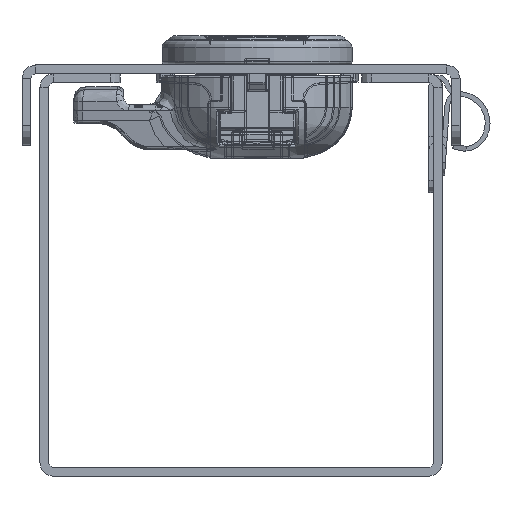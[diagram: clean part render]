
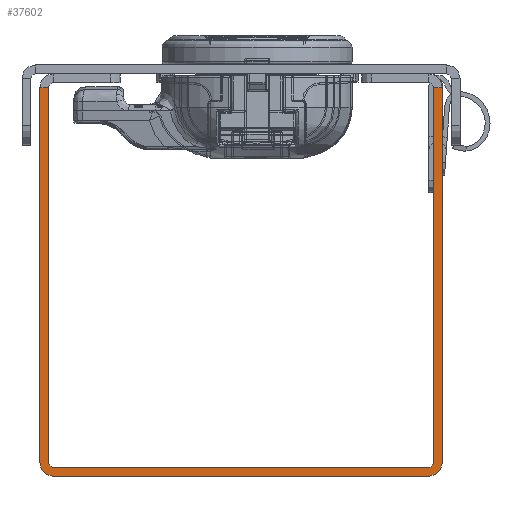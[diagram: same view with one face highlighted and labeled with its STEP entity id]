
A CAD part, front view. The second image highlights one B-rep face of the part: STEP entity #37602.
In plain terms, the highlighted planar face has unit normal (0, -1, 0).
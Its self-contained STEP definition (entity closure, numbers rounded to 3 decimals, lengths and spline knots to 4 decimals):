
#3019=FACE_OUTER_BOUND('',#5299,.T.);
#5299=EDGE_LOOP('',(#27410,#27411,#27412,#27413,#27414,#27415,#27416,#27417,
#27418,#27419,#27420,#27421));
#7518=LINE('',#53892,#10893);
#8263=LINE('',#56097,#11638);
#8270=LINE('',#56119,#11645);
#8277=LINE('',#56143,#11652);
#8279=LINE('',#56149,#11654);
#8280=LINE('',#56152,#11655);
#8281=LINE('',#56154,#11656);
#8282=LINE('',#56158,#11657);
#10893=VECTOR('',#43601,0.3937);
#11638=VECTOR('',#45808,0.3937);
#11645=VECTOR('',#45835,0.3937);
#11652=VECTOR('',#45860,0.3937);
#11654=VECTOR('',#45866,0.3937);
#11655=VECTOR('',#45869,0.3937);
#11656=VECTOR('',#45870,0.3937);
#11657=VECTOR('',#45873,0.3937);
#14355=CIRCLE('',#40428,0.031);
#14356=CIRCLE('',#40429,0.031);
#14357=CIRCLE('',#40430,0.086);
#14358=CIRCLE('',#40431,0.086);
#15681=VERTEX_POINT('',#53889);
#15682=VERTEX_POINT('',#53891);
#16411=VERTEX_POINT('',#56092);
#16414=VERTEX_POINT('',#56107);
#16416=VERTEX_POINT('',#56118);
#16424=VERTEX_POINT('',#56142);
#16425=VERTEX_POINT('',#56146);
#16426=VERTEX_POINT('',#56148);
#16427=VERTEX_POINT('',#56150);
#16428=VERTEX_POINT('',#56153);
#16429=VERTEX_POINT('',#56155);
#16430=VERTEX_POINT('',#56157);
#19394=EDGE_CURVE('',#15682,#15681,#7518,.T.);
#20500=EDGE_CURVE('',#16411,#15682,#8263,.T.);
#20510=EDGE_CURVE('',#16416,#16414,#8270,.T.);
#20522=EDGE_CURVE('',#16411,#16424,#8277,.T.);
#20524=EDGE_CURVE('',#16425,#15681,#14355,.T.);
#20525=EDGE_CURVE('',#16425,#16426,#8279,.T.);
#20526=EDGE_CURVE('',#16426,#16427,#14356,.T.);
#20527=EDGE_CURVE('',#16427,#16416,#8280,.T.);
#20528=EDGE_CURVE('',#16428,#16414,#8281,.T.);
#20529=EDGE_CURVE('',#16429,#16428,#14357,.T.);
#20530=EDGE_CURVE('',#16430,#16429,#8282,.T.);
#20531=EDGE_CURVE('',#16430,#16424,#14358,.T.);
#27410=ORIENTED_EDGE('',*,*,#20500,.T.);
#27411=ORIENTED_EDGE('',*,*,#19394,.T.);
#27412=ORIENTED_EDGE('',*,*,#20524,.F.);
#27413=ORIENTED_EDGE('',*,*,#20525,.T.);
#27414=ORIENTED_EDGE('',*,*,#20526,.T.);
#27415=ORIENTED_EDGE('',*,*,#20527,.T.);
#27416=ORIENTED_EDGE('',*,*,#20510,.T.);
#27417=ORIENTED_EDGE('',*,*,#20528,.F.);
#27418=ORIENTED_EDGE('',*,*,#20529,.F.);
#27419=ORIENTED_EDGE('',*,*,#20530,.F.);
#27420=ORIENTED_EDGE('',*,*,#20531,.T.);
#27421=ORIENTED_EDGE('',*,*,#20522,.F.);
#36459=PLANE('',#40427);
#37602=ADVANCED_FACE('',(#3019),#36459,.T.);
#40427=AXIS2_PLACEMENT_3D('',#56145,#45862,#45863);
#40428=AXIS2_PLACEMENT_3D('',#56147,#45864,#45865);
#40429=AXIS2_PLACEMENT_3D('',#56151,#45867,#45868);
#40430=AXIS2_PLACEMENT_3D('',#56156,#45871,#45872);
#40431=AXIS2_PLACEMENT_3D('',#56159,#45874,#45875);
#43601=DIRECTION('',(0.,0.,-1.));
#45808=DIRECTION('',(-1.,0.,0.));
#45835=DIRECTION('',(-1.,0.,0.));
#45860=DIRECTION('',(0.,0.,-1.));
#45862=DIRECTION('center_axis',(0.,-1.,0.));
#45863=DIRECTION('ref_axis',(0.,0.,-1.));
#45864=DIRECTION('center_axis',(0.,-1.,0.));
#45865=DIRECTION('ref_axis',(0.,0.,
-1.));
#45866=DIRECTION('',(-1.,0.,0.));
#45867=DIRECTION('center_axis',(0.,1.,0.));
#45868=DIRECTION('ref_axis',(0.,0.,
-1.));
#45869=DIRECTION('',(0.,0.,1.));
#45870=DIRECTION('',(0.,0.,1.));
#45871=DIRECTION('center_axis',(0.,1.,0.));
#45872=DIRECTION('ref_axis',(0.,0.,
-1.));
#45873=DIRECTION('',(-1.,0.,0.));
#45874=DIRECTION('center_axis',(0.,-1.,0.));
#45875=DIRECTION('ref_axis',(0.,0.,
-1.));
#53889=CARTESIAN_POINT('',(1.195,-60.,0.086));
#53891=CARTESIAN_POINT('',(1.195,-60.,2.414));
#53892=CARTESIAN_POINT('',(1.195,-60.,2.5));
#56092=CARTESIAN_POINT('',(1.25,-60.,2.414));
#56097=CARTESIAN_POINT('',(-0.0275,-60.,2.414));
#56107=CARTESIAN_POINT('',(-1.25,-60.,2.414));
#56118=CARTESIAN_POINT('',(-1.195,-60.,2.414));
#56119=CARTESIAN_POINT('',(-1.2225,-60.,2.414));
#56142=CARTESIAN_POINT('',(1.25,-60.,0.086));
#56143=CARTESIAN_POINT('',(1.25,-60.,2.5));
#56145=CARTESIAN_POINT('Origin',(-1.25,-60.,0.));
#56146=CARTESIAN_POINT('',(1.164,-60.,0.055));
#56147=CARTESIAN_POINT('Origin',(1.164,-60.,0.086));
#56148=CARTESIAN_POINT('',(-1.164,-60.,0.055));
#56149=CARTESIAN_POINT('',(1.25,-60.,0.055));
#56150=CARTESIAN_POINT('',(-1.195,-60.,0.086));
#56151=CARTESIAN_POINT('Origin',(-1.164,-60.,0.086));
#56152=CARTESIAN_POINT('',(-1.195,-60.,0.));
#56153=CARTESIAN_POINT('',(-1.25,-60.,0.086));
#56154=CARTESIAN_POINT('',(-1.25,-60.,0.));
#56155=CARTESIAN_POINT('',(-1.164,-60.,0.));
#56156=CARTESIAN_POINT('Origin',(-1.164,-60.,0.086));
#56157=CARTESIAN_POINT('',(1.164,-60.,0.));
#56158=CARTESIAN_POINT('',(1.25,-60.,0.));
#56159=CARTESIAN_POINT('Origin',(1.164,-60.,0.086));
